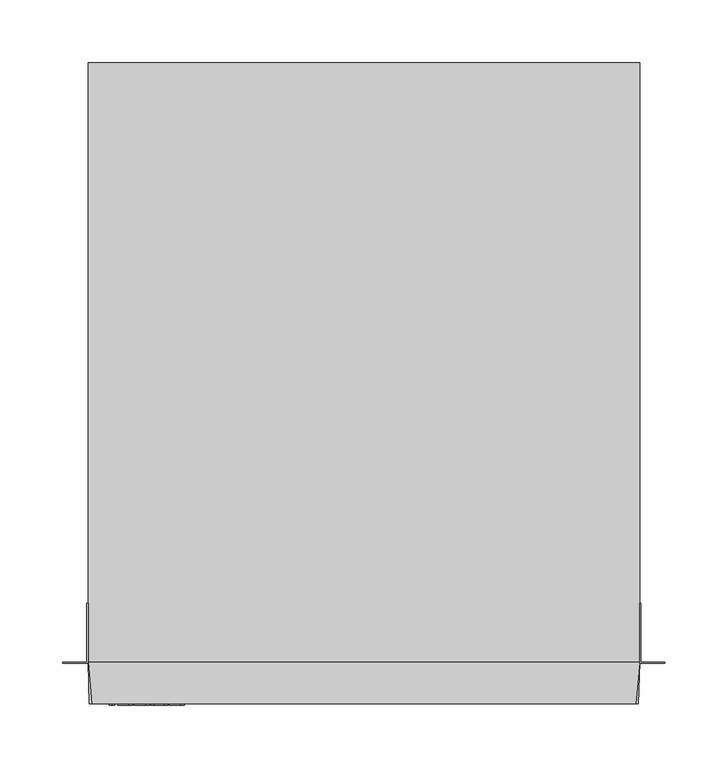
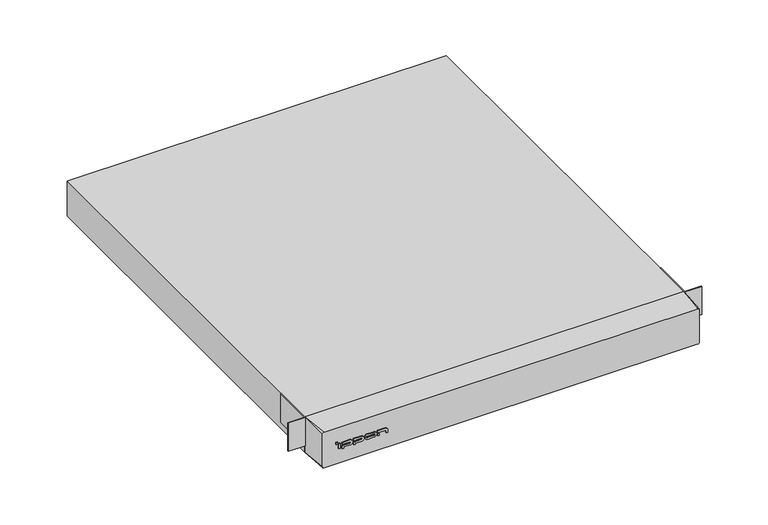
"""IFC4 building model written with IfcOpenShell, lengths in millimetres: proxy geometry, IPPON_ИБП_Smart Winner II 1U_1150_1550ВА : Smart Winner II 1150 ВА (1U)."""

from ifc_helpers import new_model, si_unit, point, frame, frame_2d, origin, place, context, project, spatial, polyline, circle_curve, trimmed, segment, composite_curve, outline, extrude, source, transform, mapped, element, save
from ifc_brep_helpers import plane_surface, spline_surface, advanced_brep


def electrical_equipment_fa8cc59b(model_context):
    return source(origin(), model_context, "Body", "SolidModel", [
        extrude(outline(polyline([(-200.4218133, -1.0), (-202.4218133, -1.0), (-202.4218133, 0.0), (-200.4218133, 0.0), (-200.4218133, -1.0)])), frame((0.0, 0.0, 25.5695835), z_axis=(0.0, 0.0, 1.0), x_axis=(1.0, 0.0, 0.0)), (0.0, 0.0, 1.0), 2.3),
        extrude(outline(polyline([(-152.6464526, -1.0), (-154.6464526, -1.0), (-154.6464526, 0.0), (-152.6464526, 0.0), (-152.6464526, -1.0)])), frame((0.0, 0.0, 19.5695835), z_axis=(0.0, 0.0, 1.0), x_axis=(1.0, 0.0, 0.0)), (0.0, 0.0, 1.0), 2.2268231),
        extrude(outline(polyline([(-197.688565, -1.0), (-199.7333324, -1.0), (-199.7333324, 0.0), (-197.688565, 0.0), (-197.688565, -1.0)])), frame((0.0, 0.0, 19.5695835), z_axis=(0.0, 0.0, 1.0), x_axis=(1.0, 0.0, 0.0)), (0.0, 0.0, 1.0), 6.0),
        extrude(outline(composite_curve([segment(polyline([(23.3071435, -195.4741109), (23.3071435, -186.2423536)]), True, "CONTINUOUS"), segment(trimmed(circle_curve(frame_2d((22.4506642, -186.2423536)), 0.8564793), [point((23.3071435, -186.2423536))], [point((21.5941849, -186.2423536))], True, "CARTESIAN"), True, "CONTINUOUS"), segment(polyline([(21.5941849, -186.2423536), (21.5941849, -195.4741109), (18.1036803, -195.4741109), (18.1036803, -193.4741109), (19.5695835, -193.4741109), (19.5695835, -186.3986036)]), True, "CONTINUOUS"), segment(trimmed(circle_curve(frame_2d((22.5695835, -186.3986036)), 3.0), [point((19.5695835, -186.3986036))], [point((25.5695835, -186.3986036))], False, "CARTESIAN"), True, "CONTINUOUS"), segment(polyline([(25.5695835, -186.3986036), (25.5695835, -195.4741109), (23.3071435, -195.4741109)]), True, "CONTINUOUS")], self_intersect=False)), frame((0.0, -1.0, 0.0), z_axis=(0.0, 1.0, 0.0), x_axis=(0.0, 0.0, 1.0)), (0.0, 0.0, 1.0), 1.0),
        extrude(outline(composite_curve([segment(polyline([(23.3071435, -182.2671091), (23.3071435, -173.0353518)]), True, "CONTINUOUS"), segment(trimmed(circle_curve(frame_2d((22.4506642, -173.0353518)), 0.8564793), [point((23.3071435, -173.0353518))], [point((21.5941849, -173.0353518))], True, "CARTESIAN"), True, "CONTINUOUS"), segment(polyline([(21.5941849, -173.0353518), (21.5941849, -182.2671091), (18.1036803, -182.2671091), (18.1036803, -180.2671091), (19.5695835, -180.2671091), (19.5695835, -173.1916018)]), True, "CONTINUOUS"), segment(trimmed(circle_curve(frame_2d((22.5695835, -173.1916018)), 3.0), [point((19.5695835, -173.1916018))], [point((25.5695835, -173.1916018))], False, "CARTESIAN"), True, "CONTINUOUS"), segment(polyline([(25.5695835, -173.1916018), (25.5695835, -182.2671091), (23.3071435, -182.2671091)]), True, "CONTINUOUS")], self_intersect=False)), frame((0.0, -1.0, 0.0), z_axis=(0.0, 1.0, 0.0), x_axis=(0.0, 0.0, 1.0)), (0.0, 0.0, 1.0), 1.0),
        extrude(outline(composite_curve([segment(trimmed(circle_curve(frame_2d((22.5695835, -158.691343)), 3.0), [point((19.5695835, -158.691343))], [point((25.5695835, -158.691343))], False, "CARTESIAN"), True, "CONTINUOUS"), segment(polyline([(25.5695835, -158.691343), (25.5695835, -166.291343)]), True, "CONTINUOUS"), segment(trimmed(circle_curve(frame_2d((22.5695835, -166.291343)), 3.0), [point((25.5695835, -166.291343))], [point((19.5695835, -166.291343))], False, "CARTESIAN"), True, "CONTINUOUS"), segment(polyline([(19.5695835, -166.291343), (19.5695835, -158.691343)]), True, "CONTINUOUS")], self_intersect=False), holes=[composite_curve([segment(polyline([(21.5941849, -158.535093), (21.5941849, -166.447593)]), True, "CONTINUOUS"), segment(trimmed(circle_curve(frame_2d((22.4506642, -166.447593)), 0.8564793), [point((21.5941849, -166.447593))], [point((23.3071435, -166.447593))], True, "CARTESIAN"), True, "CONTINUOUS"), segment(polyline([(23.3071435, -166.447593), (23.3071435, -158.535093)]), True, "CONTINUOUS"), segment(trimmed(circle_curve(frame_2d((22.4506642, -158.535093)), 0.8564793), [point((23.3071435, -158.535093))], [point((21.5941849, -158.535093))], True, "CARTESIAN"), True, "CONTINUOUS")], self_intersect=False)]), frame((0.0, -1.0, 0.0), z_axis=(0.0, 1.0, 0.0), x_axis=(0.0, 0.0, 1.0)), (0.0, 0.0, 1.0), 1.0),
        extrude(outline(composite_curve([segment(polyline([(23.3071435, -154.6464526), (23.3071435, -145.4146954)]), True, "CONTINUOUS"), segment(trimmed(circle_curve(frame_2d((22.4506642, -145.4146954)), 0.8564793), [point((23.3071435, -145.4146954))], [point((22.4506642, -144.5582161))], True, "CARTESIAN"), True, "CONTINUOUS"), segment(polyline([(22.4506642, -144.5582161), (19.5695835, -144.5582161), (19.5695835, -142.6182079), (23.1, -142.6182079)]), True, "CONTINUOUS"), segment(trimmed(circle_curve(frame_2d((22.5695835, -145.5709454)), 3.0), [point((23.1, -142.6182079))], [point((25.5695835, -145.5709454))], False, "CARTESIAN"), True, "CONTINUOUS"), segment(polyline([(25.5695835, -145.5709454), (25.5695835, -154.6464526), (23.3071435, -154.6464526)]), True, "CONTINUOUS")], self_intersect=False)), frame((0.0, -1.0, 0.0), z_axis=(0.0, 1.0, 0.0), x_axis=(0.0, 0.0, 1.0)), (0.0, 0.0, 1.0), 1.0),
        extrude(outline(polyline([(219.0, 32.0), (219.0, 80.0), (220.0, 80.0), (220.0, 33.0), (239.0, 33.0), (239.0, 32.0), (219.0, 32.0)])), frame((0.0, 0.0, 10.0), z_axis=(0.0, 0.0, 1.0), x_axis=(1.0, 0.0, 0.0)), (0.0, 0.0, 1.0), 34.7),
        extrude(outline(polyline([(-219.0, 32.0), (-239.0, 32.0), (-239.0, 33.0), (-220.0, 33.0), (-220.0, 80.0), (-219.0, 80.0), (-219.0, 32.0)])), frame((0.0, 0.0, 10.0), z_axis=(0.0, 0.0, 1.0), x_axis=(1.0, 0.0, 0.0)), (0.0, 0.0, 1.0), 34.7),
        advanced_brep(
        [(216.0, 0.0, 1.5), (218.0, 0.0, 3.5), (218.0, 0.0, 42.7), (216.0, 0.0, 44.7), (-216.0, 0.0, 44.7), (-218.0, 0.0, 42.7), (-218.0, 0.0, 3.5), (-216.0, 0.0, 1.5), (219.0, 33.0, 1.5), (-219.0, 33.0, 1.5), (-219.0, 33.0, 44.7), (219.0, 33.0, 44.7)],
        [
            (0, 1, circle_curve(frame((216.0, 0.0, 3.5), z_axis=(0.0, -1.0, 0.0), x_axis=(-1.0, 0.0, 0.0)), 2.0)),
            (1, 2),
            (2, 3, circle_curve(frame((216.0, 0.0, 42.7), z_axis=(0.0, -1.0, 0.0), x_axis=(-1.0, 0.0, 0.0)), 2.0)),
            (3, 4),
            (4, 5, circle_curve(frame((-216.0, 0.0, 42.7), z_axis=(0.0, -1.0, 0.0), x_axis=(-1.0, 0.0, 0.0)), 2.0)),
            (5, 6),
            (6, 7, circle_curve(frame((-216.0, 0.0, 3.5), z_axis=(0.0, -1.0, 0.0), x_axis=(-1.0, 0.0, 0.0)), 2.0)),
            (7, 0),
            (8, 9),
            (9, 10),
            (10, 11),
            (11, 8),
            (0, 8),
            (8, 1),
            (7, 9),
            (6, 9),
            (5, 10),
            (4, 10),
            (3, 11),
            (2, 11),
        ],
        [
            plane_surface(frame((0.0, 0.0, 23.1), z_axis=(0.0, -1.0, 0.0), x_axis=(1.0, 0.0, 0.0))),
            plane_surface(frame((0.0, 33.0, 23.1), z_axis=(0.0, 1.0, 0.0), x_axis=(1.0, 0.0, 0.0))),
            spline_surface(2, 1, [[(219.0, 33.0, 1.5), (216.0, 0.0, 1.5)], [(219.0, 33.0, 1.5), (218.0, 0.0, 1.5)], [(219.0, 33.0, 1.5), (218.0, 0.0, 3.5)]], [3, 3], [2, 2], [0.0, 1.0], [0.0, 1.0], weights=[[1.0, 1.0], [0.7071067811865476, 0.7071067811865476], [1.0, 1.0]]),
            plane_surface(frame((0.0, 33.0, 1.5), z_axis=(0.0, 0.0, -1.0), x_axis=(1.0, 0.0, 0.0))),
            spline_surface(2, 1, [[(-219.0, 33.0, 1.5), (-218.0, 0.0, 3.5)], [(-219.0, 33.0, 1.5), (-218.0, 0.0, 1.5)], [(-219.0, 33.0, 1.5), (-216.0, 0.0, 1.5)]], [3, 3], [2, 2], [0.0, 1.0], [0.0, 1.0], weights=[[1.0, 1.0], [0.7071067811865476, 0.7071067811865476], [1.0, 1.0]]),
            plane_surface(frame((-219.0, 33.0, 23.1), z_axis=(-0.9995411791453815, -0.030289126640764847, 0.0), x_axis=(0.0, 0.0, -1.0))),
            spline_surface(2, 1, [[(-219.0, 33.0, 44.7), (-216.0, 0.0, 44.7)], [(-219.0, 33.0, 44.7), (-218.0, 0.0, 44.7)], [(-219.0, 33.0, 44.7), (-218.0, 0.0, 42.7)]], [3, 3], [2, 2], [0.0, 1.0], [0.0, 1.0], weights=[[1.0, 1.0], [0.7071067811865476, 0.7071067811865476], [1.0, 1.0]]),
            plane_surface(frame((0.0, 33.0, 44.7), z_axis=(0.0, 0.0, 1.0), x_axis=(-1.0, 0.0, 0.0))),
            spline_surface(2, 1, [[(219.0, 33.0, 44.7), (218.0, 0.0, 42.7)], [(219.0, 33.0, 44.7), (218.0, 0.0, 44.7)], [(219.0, 33.0, 44.7), (216.0, 0.0, 44.7)]], [3, 3], [2, 2], [0.0, 1.0], [0.0, 1.0], weights=[[1.0, 1.0], [0.7071067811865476, 0.7071067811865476], [1.0, 1.0]]),
            plane_surface(frame((219.0, 33.0, 23.1), z_axis=(0.9995411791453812, -0.03028912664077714, 0.0), x_axis=(0.0, 0.0, 1.0))),
        ],
        [
            (0, [[1, 2, 3, 4, 5, 6, 7, 8]]),
            (1, [[9, 10, 11, 12]]),
            (2, [[-1, 13, 14]]),
            (3, [[-9, -13, -8, 15]]),
            (4, [[-7, 16, -15]]),
            (5, [[-10, -16, -6, 17]]),
            (6, [[-5, 18, -17]]),
            (7, [[-11, -18, -4, 19]]),
            (8, [[-3, 20, -19]]),
            (9, [[-12, -20, -2, -14]]),
        ],
    ),
        extrude(outline(polyline([(219.0, 33.0), (-219.0, 33.0), (-219.0, 509.0), (219.0, 509.0), (219.0, 33.0)])), frame((0.0, 0.0, 1.5), z_axis=(0.0, 0.0, 1.0), x_axis=(1.0, 0.0, 0.0)), (0.0, 0.0, 1.0), 43.2),
    ])


if __name__ == "__main__":
    model = new_model("IFC4")
    model_context = context("Model", 3, world=origin())
    ifc_project = project(units=[si_unit("LENGTHUNIT", "METRE", prefix="MILLI")], contexts=[model_context])
    site = spatial("IfcSite", under=ifc_project)
    building = spatial("IfcBuilding", under=site)
    placement = place(None, origin())
    electrical_equipment_shape = electrical_equipment_fa8cc59b(model_context)
    element("IfcBuildingElementProxy", 1, Name="IPPON_ИБП_Smart Winner II 1U_1150_1550ВА : Smart Winner II 1150 ВА (1U)", ObjectType="IPPON_ИБП_Smart Winner II 1U_1150_1550ВА : Smart Winner II 1150 ВА (1U)", at=placement, inside=building, context=model_context, shape_type="MappedRepresentation", body=[
        mapped(electrical_equipment_shape, transform((0.0, 0.0, 0.0), x_axis=(1.0, 0.0, 0.0), y_axis=(0.0, 1.0, 0.0), z_axis=(0.0, 0.0, 1.0))),
    ])
    save(model, "model.ifc")
